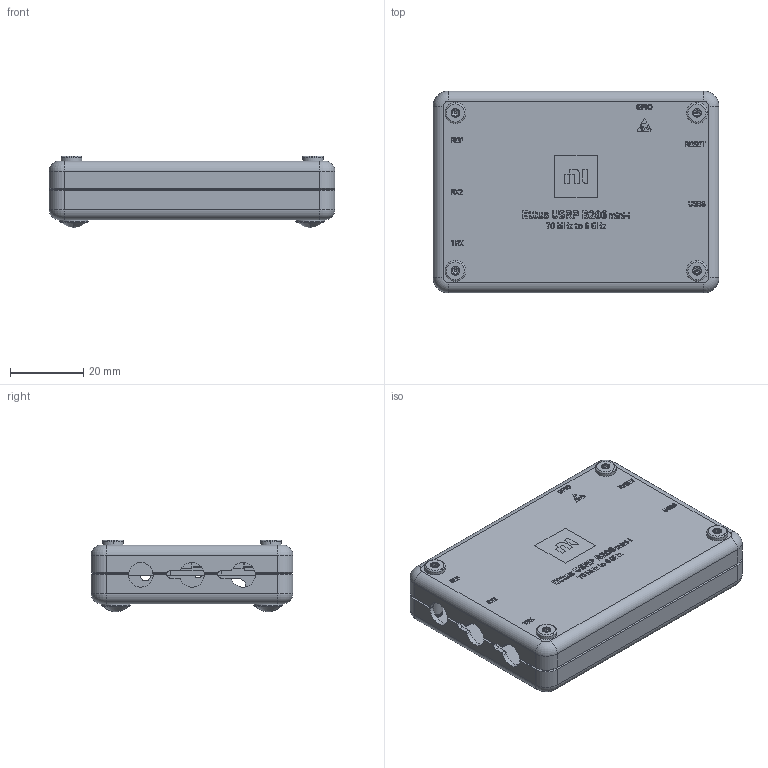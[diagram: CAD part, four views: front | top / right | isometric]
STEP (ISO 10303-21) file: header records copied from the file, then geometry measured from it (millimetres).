
FILE_DESCRIPTION(('Creo Elements/Direct Modeling STEP Export'),'2;1');
FILE_NAME('cu_usrp_b206mini-i_enc.stp','2025-07-16T12:32:13',(''),(''),'Creo Elements/Direct Modeling STEP processor for AP214 (Solid Model)','Creo Elements/Direct Modeling 20.6 25-Mar-2023 (C) Parametric Technology GmbH','');
FILE_SCHEMA(('AUTOMOTIVE_DESIGN { 1 0 10303 214 1 1 1 1 }'));
Length unit declared in the file: millimetre
Products named in the file (16): wavespring_.194id_.242od_.030h-0.8lbs-15mils_MEI.2; screw-M3x14mmL-T8-low-wafer-head-blk-oxide.2.1; bottom_plateUSRP-B206mini; standoff-M3_6.35mmL-thru_DSO-M3-6.35ZI; bottom-plateUSRP-B206mini.01; top_plateUSRP-B206mini; standoff-unthreaded-8mmL_SO-43.1-8ZI.1; top-plateUSRP-B206mini; PEM_custom_M2x0pt4_B200; top-plateUSRP_B206mini-i.01; thermal-insertUSRP-B206mini.01; thermal-pad-Amp-sot89-.18x.18x.04-Ettus-B200i-grade_GP7100-H1-tennmax; thermal-pad-RFTrnscvr_USB-Cntrl-.41x.41x.04-Ettus-B200i-grade_GP7100-H1
-tennmax; thermal-pad-FPGA-.76x.76x.04-Ettus-B200i-grade_GP7100-H1-tennmax; foot_adh-Blk-.312inDia-.1; B206mini-i_USRP_enclosure-assy
Assembly tree (31 placements, depth 4):
  B206mini-i_USRP_enclosure-assy
    foot_adh-Blk-.312inDia-.1  x4
    wavespring_.194id_.242od_.030h-0.8lbs-15mils_MEI.2  x4
    screw-M3x14mmL-T8-low-wafer-head-blk-oxide.2.1  x4
    thermal-pad-RFTrnscvr_USB-Cntrl-.41x.41x.04-Ettus-B200i-grade_GP7100-H1
-tennmax  x2
    thermal-pad-FPGA-.76x.76x.04-Ettus-B200i-grade_GP7100-H1-tennmax
    thermal-pad-Amp-sot89-.18x.18x.04-Ettus-B200i-grade_GP7100-H1-tennmax
    thermal-insertUSRP-B206mini.01
    top-plateUSRP_B206mini-i.01
      PEM_custom_M2x0pt4_B200
      top-plateUSRP-B206mini
        standoff-unthreaded-8mmL_SO-43.1-8ZI.1  x4
        top_plateUSRP-B206mini
    bottom-plateUSRP-B206mini.01
      standoff-M3_6.35mmL-thru_DSO-M3-6.35ZI  x4
      bottom_plateUSRP-B206mini
Bounding box: 78.17 x 55.19 x 19.54 mm (x, y, z)
Volume: 29812.7 mm3; surface area: 38853.4 mm2
Topology: 28 solids, 28 shells, 1471 faces, 4728 edges, 3542 vertices
Faces by surface type: cylinder 765, plane 496, bspline 80, cone 74, torus 40, revolution 8, extrusion 8
Entity records: 52046 total; most frequent: CARTESIAN_POINT 26449, ORIENTED_EDGE 5792, DIRECTION 3452, EDGE_CURVE 2896, VERTEX_POINT 2346, VECTOR 1824, LINE 1822, EDGE_LOOP 1012
